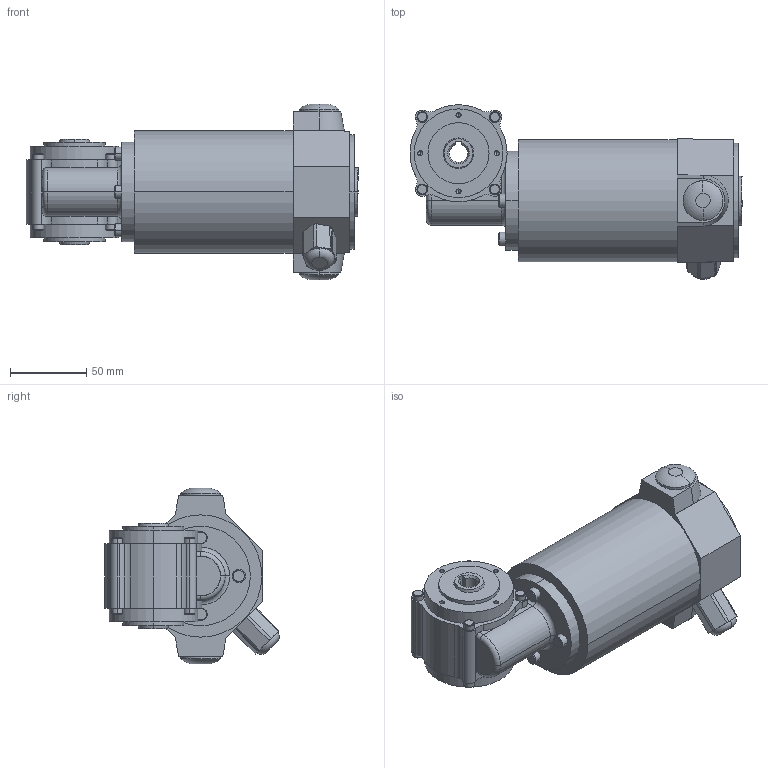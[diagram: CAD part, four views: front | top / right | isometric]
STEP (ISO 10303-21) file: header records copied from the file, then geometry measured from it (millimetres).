
FILE_DESCRIPTION(('OneSpaceDesigner STEP Export'),'2;1');
FILE_NAME('EPG12_GB12.stp','2009-09-14T11:15:55',(''),(''),'OneSpace Designer STEP processor (Jan. 2003) for AP214(CD)(Solid Model)','OneSpace Designer 12.01D 09-Jul-2004 (C) CoCreate Software GmbH','');
FILE_SCHEMA(('AUTOMOTIVE_DESIGN_CC2 {1 2 10303 214 -1 1 5 1}'));
Length unit declared in the file: millimetre
Products named in the file (2): EPG12_GB12
Assembly tree (1 placements, depth 2):
  EPG12_GB12
    EPG12_GB12
Bounding box: 217.25 x 114.12 x 115 mm (x, y, z)
Volume: 1013008.1 mm3; surface area: 77695.8 mm2
Topology: 1 solids, 1 shells, 257 faces, 657 edges, 427 vertices
Faces by surface type: cylinder 126, plane 67, cone 48, torus 14, bspline 2
Entity records: 9459 total; most frequent: CARTESIAN_POINT 3978, ORIENTED_EDGE 1282, DIRECTION 914, EDGE_CURVE 641, VERTEX_POINT 427, AXIS2_PLACEMENT_3D 334, EDGE_LOOP 300, FACE_OUTER_BOUND 257
